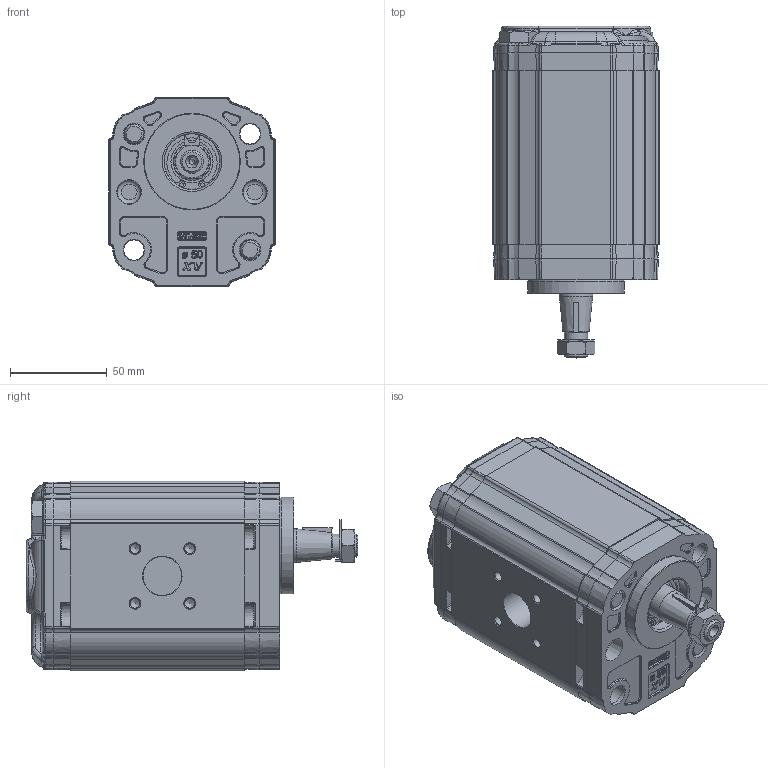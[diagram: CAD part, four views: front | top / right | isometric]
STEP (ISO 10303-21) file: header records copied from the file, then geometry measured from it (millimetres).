
FILE_DESCRIPTION(/* description */ ('Unknown'),/* implementation_level */ '2;1');
FILE_NAME(/* name */ 'X2P5912FSSA',/* time_stamp */ '2026-06-03T17:43:25+02:00',/* author */ ('Unknown'),/* organization */ ('Unknown'),/* preprocessor_version */ 'ST-DEVELOPER v16.7',/* originating_system */ 'Solid Edge',/* authorisation */ 'Unknown');
FILE_SCHEMA (('AUTOMOTIVE_DESIGN {1 0 10303 214 3 1 1}'));
Products named in the file (5): X2P5912FSSA; X2P12; 2F; X2SSH90; XP210-A
Assembly tree (4 placements, depth 2):
  X2P5912FSSA
    X2P12
    2F
    X2SSH90
    XP210-A
Bounding box: 86 x 171.65 x 98 mm (x, y, z)
Volume: 923031.8 mm3; surface area: 119288.9 mm2
Topology: 4 solids, 8 shells, 2649 faces, 6473 edges, 3906 vertices
Faces by surface type: cylinder 753, bspline 670, plane 650, cone 299, torus 213, sphere 64
Full cylindrical faces by diameter (mm): 2 x2, 5 x8, 10 x6, 10.5 x8, 11 x2, 12 x2, 12.5 x1, 16 x2, 17.42 x1, 17.48 x2, 18.724 x1, 20 x2, 20.595 x1, 21.741 x1, 25 x1, 25.834 x1, 28.56 x1, 28.57 x1, 28.8 x1, 30.5 x1, 50 x1
Entity records: 123816 total; most frequent: CARTESIAN_POINT 48973, ORIENTED_EDGE 12446, DIRECTION 10204, EDGE_CURVE 6223, AXIS2_PLACEMENT_3D 4029, VERTEX_POINT 3848, FACE_BOUND 2931, EDGE_LOOP 2921
